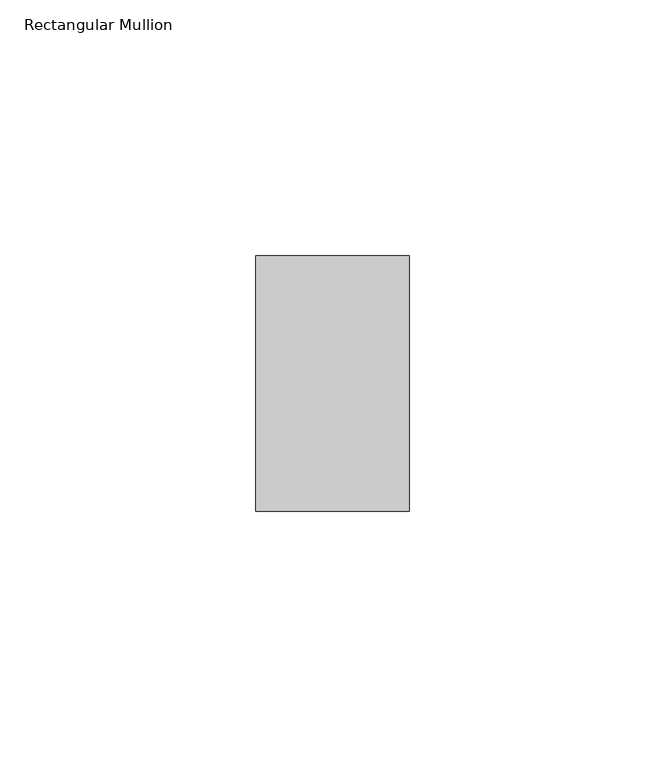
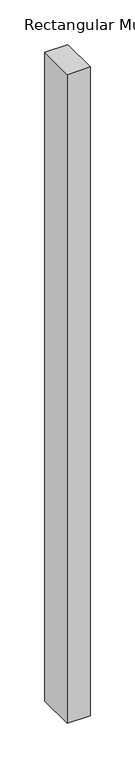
"""IFC4 building model written with IfcOpenShell, lengths in millimetres: member geometry, Rectangular Mullion : ARQ_TV_MULL_50x30mm."""

from ifc_helpers import new_model, si_unit, frame, origin, place, context, project, spatial, polyline, outline, extrude, source, transform, mapped, element, save


def rectangular_mullion_86ff511a(model_context):
    return source(origin(), model_context, "Body", "SweptSolid", [
        extrude(outline(polyline([(0.0, 25.0), (0.0, -25.0), (-30.0, -25.0), (-30.0, 25.0), (0.0, 25.0)])), frame((0.0, 0.0, -886.3112159), z_axis=(0.0, 0.0, 1.0), x_axis=(1.0, 0.0, 0.0)), (0.0, 0.0, 1.0), 886.3112159),
    ])


if __name__ == "__main__":
    model = new_model("IFC4")
    model_context = context("Model", 3, world=origin())
    ifc_project = project(units=[si_unit("LENGTHUNIT", "METRE", prefix="MILLI")], contexts=[model_context])
    site = spatial("IfcSite", under=ifc_project)
    building = spatial("IfcBuilding", under=site)
    placement = place(None, origin())
    rectangular_mullion_shape = rectangular_mullion_86ff511a(model_context)
    element("IfcMember", 1, ObjectType="Rectangular Mullion : ARQ_TV_MULL_50x30mm", at=placement, inside=building, context=model_context, shape_type="MappedRepresentation", body=[
        mapped(rectangular_mullion_shape, transform((0.0, 0.0, 0.0), x_axis=(1.0, 0.0, 0.0), y_axis=(0.0, 1.0, 0.0), z_axis=(0.0, 0.0, 1.0))),
    ])
    save(model, "model.ifc")
